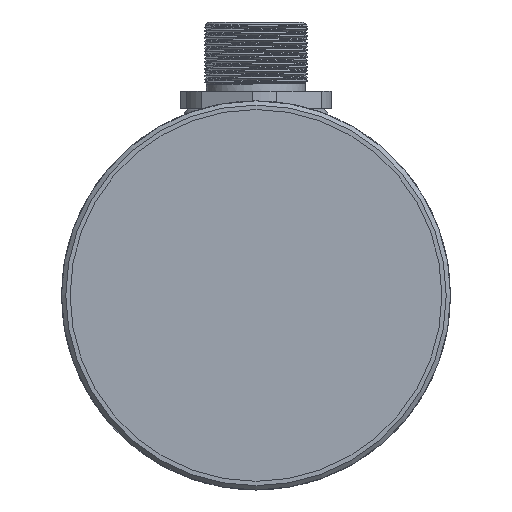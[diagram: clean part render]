
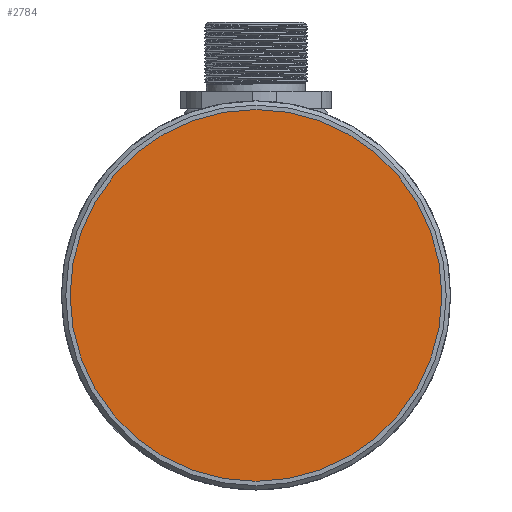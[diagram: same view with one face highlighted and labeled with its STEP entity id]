
A CAD part, left-side view. The second image highlights one B-rep face of the part: STEP entity #2784.
In plain terms, the highlighted planar face has unit normal (-1, 0, 0).
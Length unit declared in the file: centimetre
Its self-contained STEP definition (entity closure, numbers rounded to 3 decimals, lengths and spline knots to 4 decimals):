
#802=CIRCLE('',#2957,2.15);
#889=VERTEX_POINT('',#3637);
#1346=EDGE_CURVE('',#889,#889,#802,.T.);
#1698=ORIENTED_EDGE('',*,*,#1346,.T.);
#2365=EDGE_LOOP('',(#1698));
#2576=FACE_BOUND('',#2365,.T.);
#2784=ADVANCED_FACE('',(#2576),#16181,.T.);
#2957=AXIS2_PLACEMENT_3D('',#3636,#3176,#3177);
#2959=AXIS2_PLACEMENT_3D('',#3640,#3180,$);
#3176=DIRECTION('',(-1.,0.,0.));
#3177=DIRECTION('',(0.,0.,2.15));
#3180=DIRECTION('',(-1.,0.,0.));
#3636=CARTESIAN_POINT('',(0.1,0.,0.));
#3637=CARTESIAN_POINT('',(0.1,0.,2.15));
#3640=CARTESIAN_POINT('',(0.1,0.,0.));
#16181=PLANE('',#2959);
